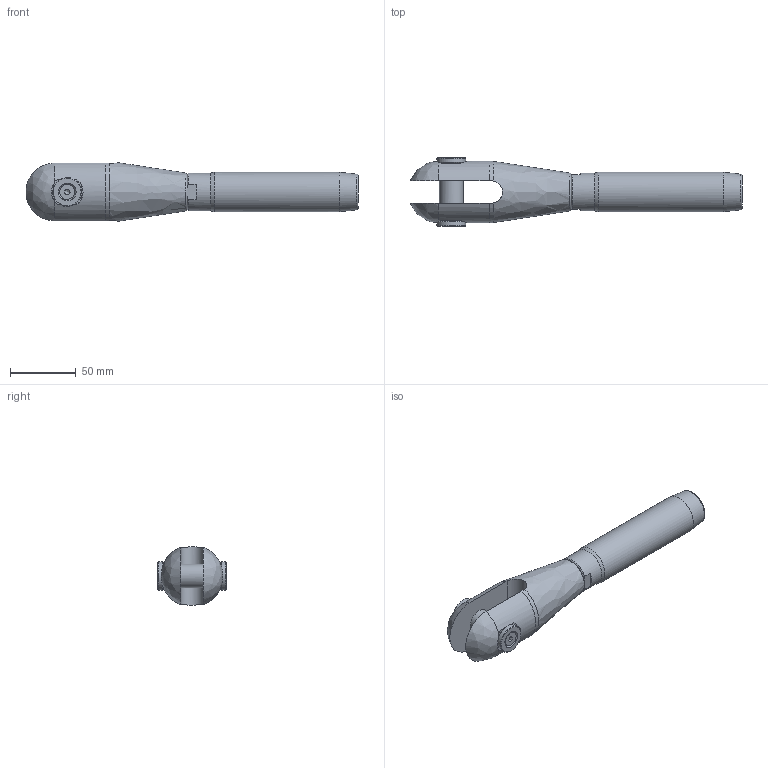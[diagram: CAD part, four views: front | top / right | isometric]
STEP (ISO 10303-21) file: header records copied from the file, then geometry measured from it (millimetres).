
FILE_DESCRIPTION(/* description */ (''),/* implementation_level */ '2;1');
FILE_NAME(/* name */ 'MAC-R 12_S355',/* time_stamp */ '2023-05-23T17:52:45+02:00',/* author */ (''),/* organization */ (''),/* preprocessor_version */ 'ST-DEVELOPER v16.5',/* originating_system */ 'Rhino 7.22',/* authorisation */ '');
FILE_SCHEMA (('CONFIG_CONTROL_DESIGN'));
Length unit declared in the file: millimetre
Products named in the file (1): Document
Bounding box: 252.37 x 51.99 x 44.41 mm (x, y, z)
Volume: 212453.3 mm3; surface area: 46415.5 mm2
Topology: 7 solids, 7 shells, 88 faces, 245 edges, 170 vertices
Faces by surface type: plane 36, bspline 28, cylinder 24
Full cylindrical faces by diameter (mm): 4.917 x2, 6 x2, 6.5 x2, 11.34 x2, 18 x1, 19 x2, 20.752 x1, 22 x2, 24 x1, 28.6 x1, 30 x1
Entity records: 3490 total; most frequent: CARTESIAN_POINT 1931, ORIENTED_EDGE 480, EDGE_CURVE 240, VERTEX_POINT 170, EDGE_LOOP 100, B_SPLINE_CURVE_WITH_KNOTS 97, ADVANCED_FACE 88, FACE_OUTER_BOUND 88
